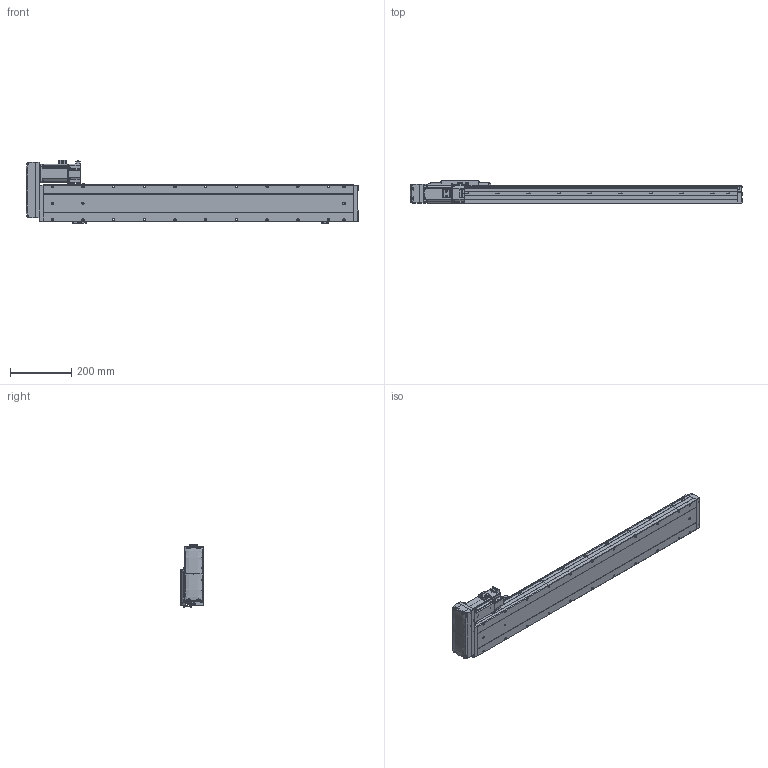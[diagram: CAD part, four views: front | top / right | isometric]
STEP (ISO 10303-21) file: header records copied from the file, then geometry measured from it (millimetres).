
FILE_DESCRIPTION (( 'STEP AP214' ), '1' );
FILE_NAME ('CTH12-L10-S800-BL-C40（简）.STEP', '2023-02-06T04:52:53', ( '' ), ( '' ), 'SwSTEP 2.0', 'SolidWorks 2018', '' );
FILE_SCHEMA (( 'AUTOMOTIVE_DESIGN' ));
Length unit declared in the file: millimetre
Products named in the file (24): CTH12; 内六角圆柱头螺钉M3-1; CTH12-BL_body_4; 400W萇儂; hex nuts, style 1-grades ab gb_GB_FASTENER_NUT_SNAB1 M3-N; CTH12_body_3; CTH12耜蚾裔; CTH400W假蚾啣; CTH12-L10-S800-BL-C40（简）; CTH12賑怢郪磁; 嫖萇羲壽郪磁2; 内六角圆柱头螺钉M3-2; CTH12覜茼え; 蚐郲; CTH12賑怢ㄗ潠ㄘ; CTH嫖萇羲壽假蚾啣; CTH12底座-L1011简（800行程）; PM-Y45; CTH400W垫板（3个厚）; M5蹟隊; 湮賑怢  裔赽-1(CTH12)賑怢; CTH12侧装连接板（标准）简; 嫖萇羲壽郪磁1; 内六角圆柱头螺钉M3
Assembly tree (44 placements, depth 4):
  CTH12-L10-S800-BL-C40（简）
    CTH12底座-L1011简（800行程）
    蚐郲  x2
    CTH12_body_3
    CTH12-BL_body_4
    CTH12侧装连接板（标准）简
    CTH12耜蚾裔
    CTH12賑怢郪磁
      CTH12
        湮賑怢  裔赽-1(CTH12)賑怢
        CTH12賑怢ㄗ潠ㄘ
    CTH12覜茼え
    CTH400W垫板（3个厚）
    400W萇儂
    内六角圆柱头螺钉M3  x6
    M5蹟隊  x4
    嫖萇羲壽郪磁1
      CTH嫖萇羲壽假蚾啣
      PM-Y45
      内六角圆柱头螺钉M3-2  x2
      内六角圆柱头螺钉M3-1  x2
      hex nuts, style 1-grades ab gb_GB_FASTENER_NUT_SNAB1 M3-N  x2
    嫖萇羲壽郪磁2  x2
      CTH嫖萇羲壽假蚾啣
      PM-Y45
      内六角圆柱头螺钉M3-1
      内六角圆柱头螺钉M3-2
      hex nuts, style 1-grades ab gb_GB_FASTENER_NUT_SNAB1 M3-N
    CTH400W假蚾啣
Bounding box: 1081.5 x 76 x 205.26 mm (x, y, z)
Volume: 7264162 mm3; surface area: 732950.3 mm2
Topology: 47 solids, 48 shells, 3305 faces, 8254 edges, 5171 vertices
Faces by surface type: plane 1594, cylinder 944, cone 451, bspline 188, torus 124, sphere 4
Entity records: 109058 total; most frequent: CARTESIAN_POINT 40450, ORIENTED_EDGE 13610, DIRECTION 12887, EDGE_CURVE 6805, AXIS2_PLACEMENT_3D 4520, VERTEX_POINT 4275, LINE 3847, VECTOR 3847
